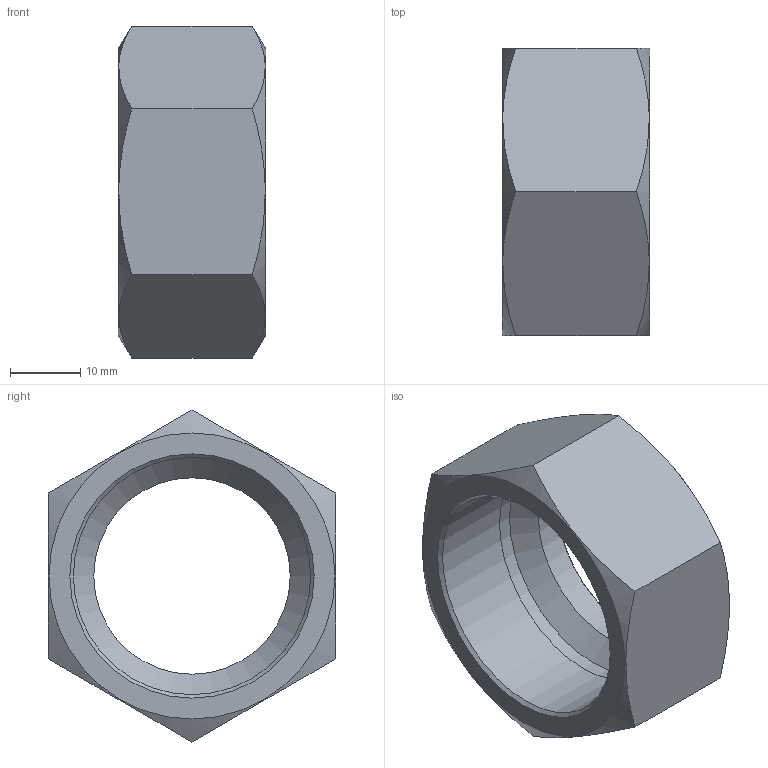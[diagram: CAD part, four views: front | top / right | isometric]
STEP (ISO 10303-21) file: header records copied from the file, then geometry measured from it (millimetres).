
FILE_DESCRIPTION( ( 'Unknown' ), '1' );
FILE_NAME( 'C:/Users/p.nanko/Desktop/3D SR/M28L.stp', 'Unknown', ( 'Peter Nanko' ), ( 'Armaturen Arndt' ), 'PSStep 14.0', 'Solid Edge ST4', ' ' );
FILE_SCHEMA( ( 'AUTOMOTIVE_DESIGN { 1 0 10303 214 1 1 1 1 }' ) );
Length unit declared in the file: millimetre
Products named in the file (1): 1
Bounding box: 21 x 41 x 47.34 mm (x, y, z)
Volume: 13091.8 mm3; surface area: 6437.3 mm2
Topology: 1 solids, 1 shells, 16 faces, 36 edges, 22 vertices
Faces by surface type: plane 8, cone 5, cylinder 3
Full cylindrical faces by diameter (mm): 28 x1, 33.835 x2
Entity records: 672 total; most frequent: CARTESIAN_POINT 221, DIRECTION 58, ORIENTED_EDGE 54, EDGE_CURVE 27, AXIS2_PLACEMENT_3D 26, EDGE_LOOP 26, VERTEX_POINT 21, FACE_OUTER_BOUND 19
